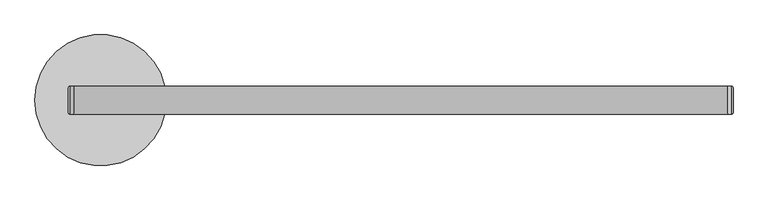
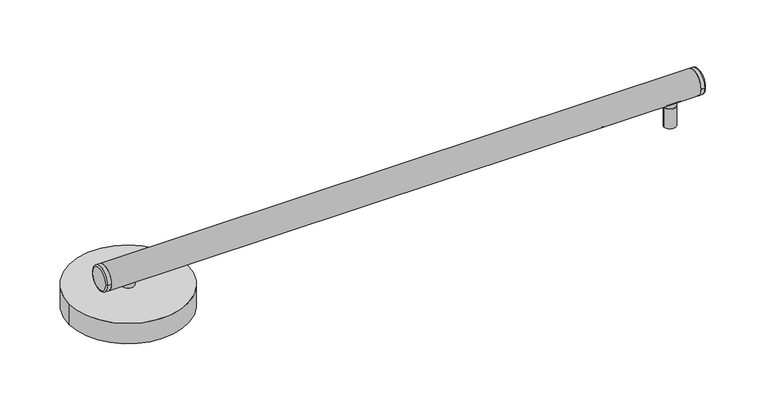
"""IFC4 building model written with IfcOpenShell, lengths in millimetres: light fixture geometry, ARTEMIDE-AoL-StandAlone-Linear_WallCeiling : StandALone_WallCeiling_Linear-1200mm 3484lm 3000K."""

from ifc_helpers import new_model, si_unit, point, frame, frame_2d, origin, origin_with_axes, place, context, project, spatial, polyline, circle_curve, ellipse_curve, trimmed, segment, composite_curve, outline, extrude, source, transform, mapped, element, save
from ifc_brep_helpers import plane_surface, cylinder_surface, revolved_surface, advanced_brep


def light_fixture_aac40e52(model_context):
    return source(origin(), model_context, "Body", "SolidModel", [
        advanced_brep(
        [(42.5, 0.0, 0.0), (53.5, 0.0, 0.0), (48.0, 0.0, 0.0), (42.5, 0.0, 1.0), (53.5, 0.0, 1.0), (36.0, 0.0, 1.0), (60.0, 0.0, 1.0), (36.0, 0.0, 42.5), (60.0, 0.0, 42.5), (38.4756244, 0.0, 42.5), (57.5243756, 0.0, 42.5), (38.4756244, 0.0, 43.4995055), (57.5243756, 0.0, 43.4995055), (36.0, 0.0, 43.4995055), (60.0, 0.0, 43.4995055), (36.0, 0.0, 52.9579379), (60.0, 0.0, 52.9579379), (48.0, 0.0, 52.9579379)],
        [
            (0, 1, circle_curve(frame((48.0, 0.0, 0.0), z_axis=(0.0, 0.0, -1.0), x_axis=(1.0, 0.0, 0.0)), 5.5)),
            (1, 2),
            (2, 0),
            (1, 0, circle_curve(frame((48.0, 0.0, 0.0), z_axis=(0.0, 0.0, -1.0), x_axis=(1.0, 0.0, 0.0)), 5.5)),
            (3, 4, circle_curve(frame((48.0, 0.0, 1.0), z_axis=(0.0, 0.0, -1.0), x_axis=(1.0, 0.0, 0.0)), 5.5)),
            (4, 1),
            (0, 3),
            (4, 3, circle_curve(frame((48.0, 0.0, 1.0), z_axis=(0.0, 0.0, -1.0), x_axis=(1.0, 0.0, 0.0)), 5.5)),
            (5, 6, circle_curve(frame((48.0, 0.0, 1.0), z_axis=(0.0, 0.0, -1.0), x_axis=(1.0, 0.0, 0.0)), 12.0)),
            (6, 4),
            (3, 5),
            (6, 5, circle_curve(frame((48.0, 0.0, 1.0), z_axis=(0.0, 0.0, -1.0), x_axis=(1.0, 0.0, 0.0)), 12.0)),
            (7, 8, circle_curve(frame((48.0, 0.0, 42.5), z_axis=(0.0, 0.0, -1.0), x_axis=(1.0, 0.0, 0.0)), 12.0)),
            (8, 6),
            (5, 7),
            (8, 7, circle_curve(frame((48.0, 0.0, 42.5), z_axis=(0.0, 0.0, -1.0), x_axis=(1.0, 0.0, 0.0)), 12.0)),
            (9, 10, circle_curve(frame((48.0, 0.0, 42.5), z_axis=(0.0, 0.0, -1.0), x_axis=(1.0, 0.0, 0.0)), 9.5243756)),
            (10, 8),
            (7, 9),
            (10, 9, circle_curve(frame((48.0, 0.0, 42.5), z_axis=(0.0, 0.0, -1.0), x_axis=(1.0, 0.0, 0.0)), 9.5243756)),
            (11, 12, circle_curve(frame((48.0, 0.0, 43.4995055), z_axis=(0.0, 0.0, -1.0), x_axis=(1.0, 0.0, 0.0)), 9.5243756)),
            (12, 10),
            (9, 11),
            (12, 11, circle_curve(frame((48.0, 0.0, 43.4995055), z_axis=(0.0, 0.0, -1.0), x_axis=(1.0, 0.0, 0.0)), 9.5243756)),
            (13, 14, circle_curve(frame((48.0, 0.0, 43.4995055), z_axis=(0.0, 0.0, -1.0), x_axis=(1.0, 0.0, 0.0)), 12.0)),
            (14, 12),
            (11, 13),
            (14, 13, circle_curve(frame((48.0, 0.0, 43.4995055), z_axis=(0.0, 0.0, -1.0), x_axis=(1.0, 0.0, 0.0)), 12.0)),
            (15, 16, circle_curve(frame((48.0, 0.0, 52.9579379), z_axis=(0.0, 0.0, -1.0), x_axis=(1.0, 0.0, 0.0)), 12.0)),
            (16, 14),
            (13, 15),
            (16, 15, circle_curve(frame((48.0, 0.0, 52.9579379), z_axis=(0.0, 0.0, -1.0), x_axis=(1.0, 0.0, 0.0)), 12.0)),
            (17, 16),
            (15, 17),
        ],
        [
            plane_surface(frame((48.0, 0.0, 0.0), z_axis=(0.0, 0.0, -1.0), x_axis=(1.0, 0.0, 0.0))),
            cylinder_surface(frame((48.0, 0.0, -58.83358), z_axis=(0.0, 0.0, 1.0), x_axis=(1.0, 0.0, 0.0)), 5.5),
            plane_surface(frame((48.0, 0.0, 1.0), z_axis=(0.0, 0.0, -1.0), x_axis=(1.0, 0.0, 0.0))),
            cylinder_surface(frame((48.0, 0.0, -58.83358), z_axis=(0.0, 0.0, 1.0), x_axis=(1.0, 0.0, 0.0)), 12.0),
            plane_surface(frame((48.0, 0.0, 42.5), z_axis=(0.0, 0.0, 1.0), x_axis=(1.0, 0.0, 0.0))),
            cylinder_surface(frame((48.0, 0.0, -58.83358), z_axis=(0.0, 0.0, 1.0), x_axis=(1.0, 0.0, 0.0)), 9.5243756),
            plane_surface(frame((48.0, 0.0, 43.4995055), z_axis=(0.0, 0.0, -1.0), x_axis=(1.0, 0.0, 0.0))),
            plane_surface(frame((48.0, 0.0, 52.9579379), z_axis=(0.0, 0.0, 1.0), x_axis=(1.0, 0.0, 0.0))),
        ],
        [
            (0, [[1, 2, 3]]),
            (0, [[4, -3, -2]]),
            (1, [[5, 6, -1, 7]]),
            (1, [[8, -7, -4, -6]]),
            (2, [[9, 10, -5, 11]]),
            (2, [[12, -11, -8, -10]]),
            (3, [[13, 14, -9, 15]]),
            (3, [[16, -15, -12, -14]]),
            (4, [[17, 18, -13, 19]]),
            (4, [[20, -19, -16, -18]]),
            (5, [[21, 22, -17, 23]]),
            (5, [[24, -23, -20, -22]]),
            (6, [[25, 26, -21, 27]]),
            (6, [[28, -27, -24, -26]]),
            (3, [[29, 30, -25, 31]]),
            (3, [[32, -31, -28, -30]]),
            (7, [[33, -29, 34]]),
            (7, [[-34, -32, -33]]),
        ],
    ),
        advanced_brep(
        [(1126.5, 0.0, 0.0), (1137.5, 0.0, 0.0), (1132.0, 0.0, 0.0), (1126.5, 0.0, 1.0), (1137.5, 0.0, 1.0), (1120.0, 0.0, 1.0), (1144.0, 0.0, 1.0), (1120.0, 0.0, 42.5), (1144.0, 0.0, 42.5), (1122.4756244, 0.0, 42.5), (1141.5243756, 0.0, 42.5), (1122.4756244, 0.0, 43.4995055), (1141.5243756, 0.0, 43.4995055), (1120.0, 0.0, 43.4995055), (1144.0, 0.0, 43.4995055), (1120.0, 0.0, 52.9579379), (1144.0, 0.0, 52.9579379), (1132.0, 0.0, 52.9579379)],
        [
            (0, 1, circle_curve(frame((1132.0, 0.0, 0.0), z_axis=(0.0, 0.0, -1.0), x_axis=(1.0, 0.0, 0.0)), 5.5)),
            (1, 2),
            (2, 0),
            (1, 0, circle_curve(frame((1132.0, 0.0, 0.0), z_axis=(0.0, 0.0, -1.0), x_axis=(1.0, 0.0, 0.0)), 5.5)),
            (3, 4, circle_curve(frame((1132.0, 0.0, 1.0), z_axis=(0.0, 0.0, -1.0), x_axis=(1.0, 0.0, 0.0)), 5.5)),
            (4, 1),
            (0, 3),
            (4, 3, circle_curve(frame((1132.0, 0.0, 1.0), z_axis=(0.0, 0.0, -1.0), x_axis=(1.0, 0.0, 0.0)), 5.5)),
            (5, 6, circle_curve(frame((1132.0, 0.0, 1.0), z_axis=(0.0, 0.0, -1.0), x_axis=(1.0, 0.0, 0.0)), 12.0)),
            (6, 4),
            (3, 5),
            (6, 5, circle_curve(frame((1132.0, 0.0, 1.0), z_axis=(0.0, 0.0, -1.0), x_axis=(1.0, 0.0, 0.0)), 12.0)),
            (7, 8, circle_curve(frame((1132.0, 0.0, 42.5), z_axis=(0.0, 0.0, -1.0), x_axis=(1.0, 0.0, 0.0)), 12.0)),
            (8, 6),
            (5, 7),
            (8, 7, circle_curve(frame((1132.0, 0.0, 42.5), z_axis=(0.0, 0.0, -1.0), x_axis=(1.0, 0.0, 0.0)), 12.0)),
            (9, 10, circle_curve(frame((1132.0, 0.0, 42.5), z_axis=(0.0, 0.0, -1.0), x_axis=(1.0, 0.0, 0.0)), 9.5243756)),
            (10, 8),
            (7, 9),
            (10, 9, circle_curve(frame((1132.0, 0.0, 42.5), z_axis=(0.0, 0.0, -1.0), x_axis=(1.0, 0.0, 0.0)), 9.5243756)),
            (11, 12, circle_curve(frame((1132.0, 0.0, 43.4995055), z_axis=(0.0, 0.0, -1.0), x_axis=(1.0, 0.0, 0.0)), 9.5243756)),
            (12, 10),
            (9, 11),
            (12, 11, circle_curve(frame((1132.0, 0.0, 43.4995055), z_axis=(0.0, 0.0, -1.0), x_axis=(1.0, 0.0, 0.0)), 9.5243756)),
            (13, 14, circle_curve(frame((1132.0, 0.0, 43.4995055), z_axis=(0.0, 0.0, -1.0), x_axis=(1.0, 0.0, 0.0)), 12.0)),
            (14, 12),
            (11, 13),
            (14, 13, circle_curve(frame((1132.0, 0.0, 43.4995055), z_axis=(0.0, 0.0, -1.0), x_axis=(1.0, 0.0, 0.0)), 12.0)),
            (15, 16, circle_curve(frame((1132.0, 0.0, 52.9579379), z_axis=(0.0, 0.0, -1.0), x_axis=(1.0, 0.0, 0.0)), 12.0)),
            (16, 14),
            (13, 15),
            (16, 15, circle_curve(frame((1132.0, 0.0, 52.9579379), z_axis=(0.0, 0.0, -1.0), x_axis=(1.0, 0.0, 0.0)), 12.0)),
            (17, 16),
            (15, 17),
        ],
        [
            plane_surface(frame((1132.0, 0.0, 0.0), z_axis=(0.0, 0.0, -1.0), x_axis=(1.0, 0.0, 0.0))),
            cylinder_surface(frame((1132.0, 0.0, -58.83358), z_axis=(0.0, 0.0, 1.0), x_axis=(1.0, 0.0, 0.0)), 5.5),
            plane_surface(frame((1132.0, 0.0, 1.0), z_axis=(0.0, 0.0, -1.0), x_axis=(1.0, 0.0, 0.0))),
            cylinder_surface(frame((1132.0, 0.0, -58.83358), z_axis=(0.0, 0.0, 1.0), x_axis=(1.0, 0.0, 0.0)), 12.0),
            plane_surface(frame((1132.0, 0.0, 42.5), z_axis=(0.0, 0.0, 1.0), x_axis=(1.0, 0.0, 0.0))),
            cylinder_surface(frame((1132.0, 0.0, -58.83358), z_axis=(0.0, 0.0, 1.0), x_axis=(1.0, 0.0, 0.0)), 9.5243756),
            plane_surface(frame((1132.0, 0.0, 43.4995055), z_axis=(0.0, 0.0, -1.0), x_axis=(1.0, 0.0, 0.0))),
            plane_surface(frame((1132.0, 0.0, 52.9579379), z_axis=(0.0, 0.0, 1.0), x_axis=(1.0, 0.0, 0.0))),
        ],
        [
            (0, [[1, 2, 3]]),
            (0, [[4, -3, -2]]),
            (1, [[5, 6, -1, 7]]),
            (1, [[8, -7, -4, -6]]),
            (2, [[9, 10, -5, 11]]),
            (2, [[12, -11, -8, -10]]),
            (3, [[13, 14, -9, 15]]),
            (3, [[16, -15, -12, -14]]),
            (4, [[17, 18, -13, 19]]),
            (4, [[20, -19, -16, -18]]),
            (5, [[21, 22, -17, 23]]),
            (5, [[24, -23, -20, -22]]),
            (6, [[25, 26, -21, 27]]),
            (6, [[28, -27, -24, -26]]),
            (3, [[29, 30, -25, 31]]),
            (3, [[32, -31, -28, -30]]),
            (7, [[33, -29, 34]]),
            (7, [[-34, -32, -33]]),
        ],
    ),
        advanced_brep(
        [(-10.0, 22.0, 75.0), (-10.0, -22.0, 75.0), (0.0, 25.0, 75.0), (0.0, -25.0, 75.0), (-7.0, -25.0, 75.0), (-7.0, 25.0, 75.0)],
        [
            (0, 1, circle_curve(frame((-10.0, 0.0, 75.0), z_axis=(-1.0, 0.0, 0.0), x_axis=(0.0, -1.0, 0.0)), 22.0)),
            (1, 0, circle_curve(frame((-10.0, 0.0, 75.0), z_axis=(-1.0, 0.0, 0.0), x_axis=(0.0, 1.0, 0.0)), 22.0)),
            (2, 3, circle_curve(frame((0.0, 0.0, 75.0), z_axis=(1.0, 0.0, 0.0), x_axis=(0.0, -1.0, 0.0)), 25.0)),
            (3, 2, circle_curve(frame((0.0, 0.0, 75.0), z_axis=(1.0, 0.0, 0.0), x_axis=(0.0, -1.0, 0.0)), 25.0)),
            (3, 4),
            (4, 5, circle_curve(frame((-7.0, 0.0, 75.0), z_axis=(1.0, 0.0, 0.0), x_axis=(0.0, -1.0, 0.0)), 25.0)),
            (5, 2),
            (5, 4, circle_curve(frame((-7.0, 0.0, 75.0), z_axis=(1.0, 0.0, 0.0), x_axis=(0.0, -1.0, 0.0)), 25.0)),
            (0, 5, circle_curve(frame((-7.0, 22.0, 75.0), z_axis=(0.0, 0.0, -1.0), x_axis=(0.0, 1.0, 0.0)), 3.0)),
            (4, 1, circle_curve(frame((-7.0, -22.0, 75.0), z_axis=(0.0, 0.0, -1.0), x_axis=(0.0, -1.0, 0.0)), 3.0)),
        ],
        [
            plane_surface(frame((-10.0, -25.0, 75.0), z_axis=(-1.0, 0.0, 0.0), x_axis=(0.0, 0.0, 1.0))),
            plane_surface(frame((0.0, -25.0, 75.0), z_axis=(1.0, 0.0, 0.0), x_axis=(0.0, 0.0, -1.0))),
            cylinder_surface(frame((0.0, 0.0, 75.0), z_axis=(-1.0, 0.0, 0.0), x_axis=(0.0, -1.0, 0.0)), 25.0),
            revolved_surface(trimmed(ellipse_curve(frame((-7.0, -22.0, 75.0), z_axis=(0.0, 0.0, 1.0), x_axis=(0.0, -1.0, 0.0)), 3.0, 3.0), [point((-10.0, -22.0, 75.0))], [point((-7.0, -25.0, 75.0))], True, "CARTESIAN"), (-10.0, 0.0, 75.0), (1.0, 0.0, 0.0)),
            revolved_surface(trimmed(ellipse_curve(frame((-7.0, 22.0, 75.0), z_axis=(0.0, 0.0, -1.0), x_axis=(0.0, 1.0, 0.0)), 3.0, 3.0), [point((-10.0, 22.0, 75.0))], [point((-7.0, 25.0, 75.0))], True, "CARTESIAN"), (-10.0, 0.0, 75.0), (1.0, 0.0, 0.0)),
        ],
        [
            (0, [[1, 2]]),
            (1, [[3, 4]]),
            (2, [[-4, 5, 6, 7]]),
            (2, [[-3, -7, 8, -5]]),
            (3, [[9, -6, 10, -1]]),
            (4, [[-9, -2, -10, -8]]),
        ],
    ),
        advanced_brep(
        [(1190.0, -22.0, 75.0), (1190.0, 22.0, 75.0), (1180.0, 25.0, 75.0), (1180.0, -25.0, 75.0), (1187.0, -25.0, 75.0), (1187.0, 25.0, 75.0)],
        [
            (0, 1, circle_curve(frame((1190.0, 0.0, 75.0), z_axis=(1.0, 0.0, 0.0), x_axis=(0.0, 1.0, 0.0)), 22.0)),
            (1, 0, circle_curve(frame((1190.0, 0.0, 75.0), z_axis=(1.0, 0.0, 0.0), x_axis=(0.0, -1.0, 0.0)), 22.0)),
            (2, 3, circle_curve(frame((1180.0, 0.0, 75.0), z_axis=(-1.0, 0.0, 0.0), x_axis=(0.0, 0.0, 1.0)), 25.0)),
            (3, 2, circle_curve(frame((1180.0, 0.0, 75.0), z_axis=(-1.0, 0.0, 0.0), x_axis=(0.0, 0.0, 1.0)), 25.0)),
            (3, 4),
            (4, 5, circle_curve(frame((1187.0, 0.0, 75.0), z_axis=(-1.0, 0.0, 0.0), x_axis=(0.0, 0.0, 1.0)), 25.0)),
            (5, 2),
            (5, 4, circle_curve(frame((1187.0, 0.0, 75.0), z_axis=(-1.0, 0.0, 0.0), x_axis=(0.0, 0.0, 1.0)), 25.0)),
            (0, 4, circle_curve(frame((1187.0, -22.0, 75.0), z_axis=(0.0, 0.0, -1.0), x_axis=(0.0, -1.0, 0.0)), 3.0)),
            (5, 1, circle_curve(frame((1187.0, 22.0, 75.0), z_axis=(0.0, 0.0, -1.0), x_axis=(0.0, 1.0, 0.0)), 3.0)),
        ],
        [
            plane_surface(frame((1190.0, 0.0, 100.0), z_axis=(1.0, 0.0, 0.0), x_axis=(0.0, -1.0, 0.0))),
            plane_surface(frame((1180.0, 0.0, 100.0), z_axis=(-1.0, 0.0, 0.0), x_axis=(0.0, 1.0, 0.0))),
            cylinder_surface(frame((1180.0, 0.0, 75.0), z_axis=(1.0, 0.0, 0.0), x_axis=(0.0, 0.0, 1.0)), 25.0),
            revolved_surface(trimmed(ellipse_curve(frame((1187.0, 22.0, 75.0), z_axis=(0.0, 0.0, 1.0), x_axis=(0.0, 1.0, 0.0)), 3.0, 3.0), [point((1190.0, 22.0, 75.0))], [point((1187.0, 25.0, 75.0))], True, "CARTESIAN"), (1190.0, 0.0, 75.0), (-1.0, 0.0, 0.0)),
            revolved_surface(trimmed(ellipse_curve(frame((1187.0, -22.0, 75.0), z_axis=(0.0, 0.0, -1.0), x_axis=(0.0, -1.0, 0.0)), 3.0, 3.0), [point((1190.0, -22.0, 75.0))], [point((1187.0, -25.0, 75.0))], True, "CARTESIAN"), (1190.0, 0.0, 75.0), (-1.0, 0.0, 0.0)),
        ],
        [
            (0, [[1, 2]]),
            (1, [[3, 4]]),
            (2, [[-4, 5, 6, 7]]),
            (2, [[-3, -7, 8, -5]]),
            (3, [[9, -8, 10, -1]]),
            (4, [[-9, -2, -10, -6]]),
        ],
    ),
        extrude(outline(composite_curve([segment(trimmed(circle_curve(frame_2d((0.0, 75.0)), 25.0), [point((-11.75, 52.9333396))], [point((11.75, 52.9333396))], False, "CARTESIAN"), True, "CONTINUOUS"), segment(polyline([(11.75, 52.9333396), (11.75, 57.259212), (13.667754, 57.259212), (13.667754, 55.8288843), (15.617754, 57.2440748), (15.617754, 59.244074), (12.667754, 59.244074), (12.667754, 60.744074), (17.2779794, 60.744074)]), True, "CONTINUOUS"), segment(trimmed(circle_curve(frame_2d((0.0, 75.0)), 22.4), [point((17.2779794, 60.744074))], [point((-17.2779794, 60.744074))], True, "CARTESIAN"), True, "CONTINUOUS"), segment(polyline([(-17.2779794, 60.744074), (-12.667754, 60.744074), (-12.667754, 59.244074), (-15.617754, 59.244074), (-15.617754, 57.2440748), (-13.667754, 55.8288843), (-13.667754, 57.259212), (-11.75, 57.259212), (-11.75, 52.9333396)]), True, "CONTINUOUS")], self_intersect=False)), frame((0.0, 0.0, 0.0), z_axis=(1.0, 0.0, 0.0), x_axis=(0.0, 1.0, 0.0)), (0.0, 0.0, 1.0), 1180.0),
        extrude(outline(composite_curve([segment(trimmed(circle_curve(frame_2d((0.0, 75.0)), 25.0), [point((11.75, 52.9333396))], [point((-11.75, 52.9333396))], False, "CARTESIAN"), True, "CONTINUOUS"), segment(polyline([(-11.75, 52.9333396), (-11.75, 57.259212), (-15.304087, 57.259212), (-15.304087, 58.785971), (-9.5062575, 58.785971), (-9.5062575, 64.4273482), (9.5062575, 64.4273482), (9.5062575, 58.785971), (15.304087, 58.785971), (15.304087, 57.259212), (11.75, 57.259212), (11.75, 52.9333396)]), True, "CONTINUOUS")], self_intersect=False)), frame((0.0, 0.0, 0.0), z_axis=(1.0, 0.0, 0.0), x_axis=(0.0, 1.0, 0.0)), (0.0, 0.0, 1.0), 1180.0),
        extrude(outline(composite_curve([segment(trimmed(circle_curve(frame_2d((48.0, 0.0)), 118.5), [point((166.5, 0.0))], [point((-70.5, 0.0))], False, "CARTESIAN"), True, "CONTINUOUS"), segment(trimmed(circle_curve(frame_2d((48.0, 0.0)), 118.5), [point((-70.5, 0.0))], [point((166.5, 0.0))], False, "CARTESIAN"), True, "CONTINUOUS")], self_intersect=False)), origin_with_axes(), (0.0, 0.0, 1.0), 43.0),
    ])


if __name__ == "__main__":
    model = new_model("IFC4")
    model_context = context("Model", 3, world=origin())
    ifc_project = project(units=[si_unit("LENGTHUNIT", "METRE", prefix="MILLI")], contexts=[model_context])
    site = spatial("IfcSite", under=ifc_project)
    building = spatial("IfcBuilding", under=site)
    placement = place(None, origin())
    light_fixture_shape = light_fixture_aac40e52(model_context)
    element("IfcLightFixture", 1, ObjectType="ARTEMIDE-AoL-StandAlone-Linear_WallCeiling : StandALone_WallCeiling_Linear-1200mm 3484lm 3000K", at=placement, inside=building, context=model_context, shape_type="MappedRepresentation", body=[
        mapped(light_fixture_shape, transform((0.0, 0.0, 0.0), x_axis=(1.0, 0.0, 0.0), y_axis=(0.0, 1.0, 0.0), z_axis=(0.0, 0.0, 1.0))),
    ])
    save(model, "model.ifc")
